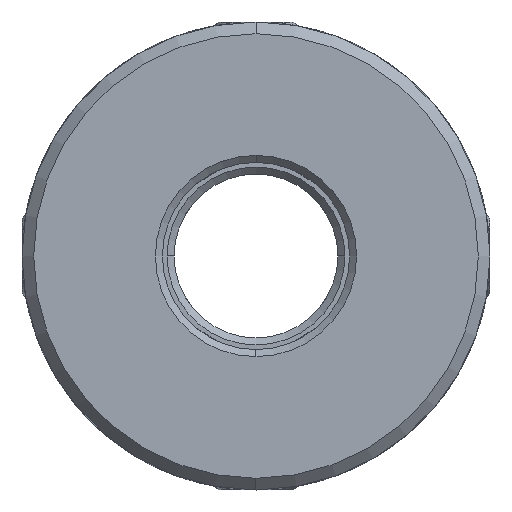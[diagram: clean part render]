
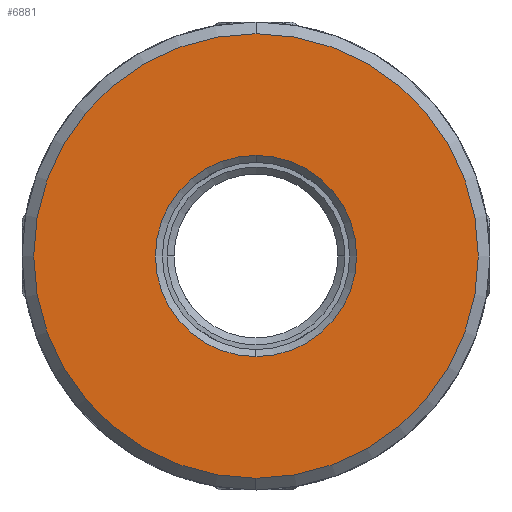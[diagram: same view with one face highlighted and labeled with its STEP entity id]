
A CAD part, front view. The second image highlights one B-rep face of the part: STEP entity #6881.
In plain terms, the highlighted planar face has unit normal (0, -1, 0).
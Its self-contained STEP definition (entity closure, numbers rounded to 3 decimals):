
#163 = EDGE_LOOP ( 'NONE', ( #4517, #6402 ) ) ;
#452 = AXIS2_PLACEMENT_3D ( 'NONE', #8118, #9615, #7422 ) ;
#772 = AXIS2_PLACEMENT_3D ( 'NONE', #2087, #5124, #8179 ) ;
#992 = EDGE_CURVE ( 'NONE', #9067, #5379, #1840, .T. ) ;
#1403 = VERTEX_POINT ( 'NONE', #6256 ) ;
#1840 = CIRCLE ( 'NONE', #772, 9.5 ) ;
#2087 = CARTESIAN_POINT ( 'NONE',  ( 0., -23., 0. ) ) ;
#2422 = CARTESIAN_POINT ( 'NONE',  ( 0., -23., 9.5 ) ) ;
#2647 = DIRECTION ( 'NONE',  ( 0., 0., -1. ) ) ;
#2928 = EDGE_LOOP ( 'NONE', ( #8874, #8350 ) ) ;
#3482 = PLANE ( 'NONE',  #8706 ) ;
#3506 = DIRECTION ( 'NONE',  ( 0., 1., 0. ) ) ;
#3750 = EDGE_CURVE ( 'NONE', #5379, #9067, #9229, .T. ) ;
#4045 = CARTESIAN_POINT ( 'NONE',  ( 0., -23., 0. ) ) ;
#4114 = EDGE_CURVE ( 'NONE', #4509, #1403, #6516, .T. ) ;
#4130 = AXIS2_PLACEMENT_3D ( 'NONE', #6601, #3506, #7249 ) ;
#4509 = VERTEX_POINT ( 'NONE', #7547 ) ;
#4517 = ORIENTED_EDGE ( 'NONE', *, *, #992, .T. ) ;
#4826 = DIRECTION ( 'NONE',  ( 0., -1., 0. ) ) ;
#5124 = DIRECTION ( 'NONE',  ( 0., -1., 0. ) ) ;
#5198 = CIRCLE ( 'NONE', #4130, 4.3 ) ;
#5379 = VERTEX_POINT ( 'NONE', #2422 ) ;
#5473 = EDGE_CURVE ( 'NONE', #1403, #4509, #5198, .T. ) ;
#5586 = DIRECTION ( 'NONE',  ( 0., 0., -1. ) ) ;
#5776 = FACE_BOUND ( 'NONE', #2928, .T. ) ;
#6256 = CARTESIAN_POINT ( 'NONE',  ( 0., -23., -4.3 ) ) ;
#6319 = CARTESIAN_POINT ( 'NONE',  ( 0., -23., -9.5 ) ) ;
#6402 = ORIENTED_EDGE ( 'NONE', *, *, #3750, .T. ) ;
#6470 = DIRECTION ( 'NONE',  ( 0., 1., 0. ) ) ;
#6516 = CIRCLE ( 'NONE', #452, 4.3 ) ;
#6601 = CARTESIAN_POINT ( 'NONE',  ( 0., -23., 0. ) ) ;
#6881 = ADVANCED_FACE ( 'NONE', ( #5776, #7878 ), #3482, .F. ) ;
#7249 = DIRECTION ( 'NONE',  ( 0., 0., -1. ) ) ;
#7422 = DIRECTION ( 'NONE',  ( 0., 0., -1. ) ) ;
#7547 = CARTESIAN_POINT ( 'NONE',  ( 0., -23., 4.3 ) ) ;
#7878 = FACE_OUTER_BOUND ( 'NONE', #163, .T. ) ;
#8118 = CARTESIAN_POINT ( 'NONE',  ( 0., -23., 0. ) ) ;
#8179 = DIRECTION ( 'NONE',  ( 0., 0., -1. ) ) ;
#8350 = ORIENTED_EDGE ( 'NONE', *, *, #5473, .T. ) ;
#8706 = AXIS2_PLACEMENT_3D ( 'NONE', #8809, #6470, #2647 ) ;
#8809 = CARTESIAN_POINT ( 'NONE',  ( 50., -23., -15.365 ) ) ;
#8874 = ORIENTED_EDGE ( 'NONE', *, *, #4114, .T. ) ;
#8943 = AXIS2_PLACEMENT_3D ( 'NONE', #4045, #4826, #5586 ) ;
#9067 = VERTEX_POINT ( 'NONE', #6319 ) ;
#9229 = CIRCLE ( 'NONE', #8943, 9.5 ) ;
#9615 = DIRECTION ( 'NONE',  ( 0., 1., 0. ) ) ;
